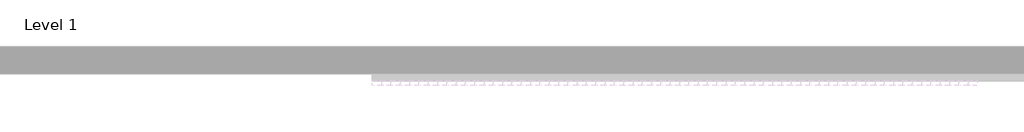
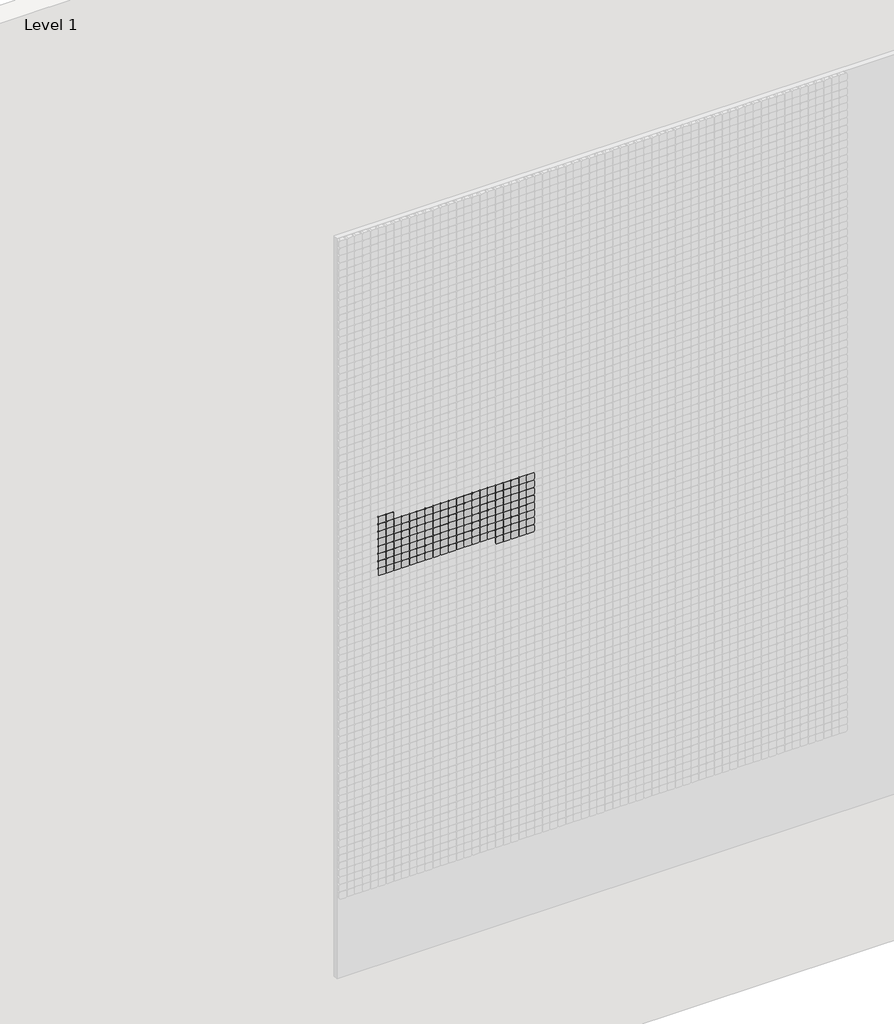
# One storey, part 13 of 71: 147 proxies.
"""IFC4 building model written with IfcOpenShell, lengths in millimetres."""

from ifc_helpers import new_model, si_unit, origin, place, context, project, spatial, transform, mapped, element, save
from components import generic_models_afde289c

model = new_model("IFC4")

# Units and contexts
model_context = context("Model", 3, world=origin())
ifc_project = project(units=[si_unit("LENGTHUNIT", "METRE", prefix="MILLI")], contexts=[model_context])

# Site, building, storey
site = spatial("IfcSite", under=ifc_project)
building = spatial("IfcBuilding", under=site)
storey = spatial("IfcBuildingStorey", under=building, Name="Level 1", Elevation=0.0)

# Proxies
placement = place(None, origin())
generic_models_shape = generic_models_afde289c(model_context)
element("IfcBuildingElementProxy", 1, Name="Pixel_M : Pixel_M", ObjectType="Pixel_M : Pixel_M", at=placement, inside=storey, context=model_context, shape_type="MappedRepresentation", body=[
    mapped(generic_models_shape, transform((5062.4280941, -75.0, 4016.3566215), x_axis=(1.0, 0.0, 0.0), y_axis=(0.0, 0.0, 1.0), z_axis=(0.0, -1.0, 0.0))),
])
element("IfcBuildingElementProxy", 2, Name="Pixel_M : Pixel_M", ObjectType="Pixel_M : Pixel_M", at=placement, inside=storey, context=model_context, shape_type="MappedRepresentation", body=[
    mapped(generic_models_shape, transform((5012.4280941, -75.0, 4016.3566215), x_axis=(1.0, 0.0, 0.0), y_axis=(0.0, 0.0, 1.0), z_axis=(0.0, -1.0, 0.0))),
])
element("IfcBuildingElementProxy", 3, Name="Pixel_M : Pixel_M", ObjectType="Pixel_M : Pixel_M", at=placement, inside=storey, context=model_context, shape_type="MappedRepresentation", body=[
    mapped(generic_models_shape, transform((5962.4280941, -75.0, 3966.3566215), x_axis=(1.0, 0.0, 0.0), y_axis=(0.0, 0.0, 1.0), z_axis=(0.0, -1.0, 0.0))),
])
element("IfcBuildingElementProxy", 4, Name="Pixel_M : Pixel_M", ObjectType="Pixel_M : Pixel_M", at=placement, inside=storey, context=model_context, shape_type="MappedRepresentation", body=[
    mapped(generic_models_shape, transform((5912.4280941, -75.0, 3966.3566215), x_axis=(1.0, 0.0, 0.0), y_axis=(0.0, 0.0, 1.0), z_axis=(0.0, -1.0, 0.0))),
])
element("IfcBuildingElementProxy", 5, Name="Pixel_M : Pixel_M", ObjectType="Pixel_M : Pixel_M", at=placement, inside=storey, context=model_context, shape_type="MappedRepresentation", body=[
    mapped(generic_models_shape, transform((5862.4280941, -75.0, 3966.3566215), x_axis=(1.0, 0.0, 0.0), y_axis=(0.0, 0.0, 1.0), z_axis=(0.0, -1.0, 0.0))),
])
element("IfcBuildingElementProxy", 6, Name="Pixel_M : Pixel_M", ObjectType="Pixel_M : Pixel_M", at=placement, inside=storey, context=model_context, shape_type="MappedRepresentation", body=[
    mapped(generic_models_shape, transform((5812.4280941, -75.0, 3966.3566215), x_axis=(1.0, 0.0, 0.0), y_axis=(0.0, 0.0, 1.0), z_axis=(0.0, -1.0, 0.0))),
])
element("IfcBuildingElementProxy", 7, Name="Pixel_M : Pixel_M", ObjectType="Pixel_M : Pixel_M", at=placement, inside=storey, context=model_context, shape_type="MappedRepresentation", body=[
    mapped(generic_models_shape, transform((5762.4280941, -75.0, 3966.3566215), x_axis=(1.0, 0.0, 0.0), y_axis=(0.0, 0.0, 1.0), z_axis=(0.0, -1.0, 0.0))),
])
element("IfcBuildingElementProxy", 8, Name="Pixel_M : Pixel_M", ObjectType="Pixel_M : Pixel_M", at=placement, inside=storey, context=model_context, shape_type="MappedRepresentation", body=[
    mapped(generic_models_shape, transform((5712.4280941, -75.0, 3966.3566215), x_axis=(1.0, 0.0, 0.0), y_axis=(0.0, 0.0, 1.0), z_axis=(0.0, -1.0, 0.0))),
])
element("IfcBuildingElementProxy", 9, Name="Pixel_M : Pixel_M", ObjectType="Pixel_M : Pixel_M", at=placement, inside=storey, context=model_context, shape_type="MappedRepresentation", body=[
    mapped(generic_models_shape, transform((5662.4280941, -75.0, 3966.3566215), x_axis=(1.0, 0.0, 0.0), y_axis=(0.0, 0.0, 1.0), z_axis=(0.0, -1.0, 0.0))),
])
element("IfcBuildingElementProxy", 10, Name="Pixel_M : Pixel_M", ObjectType="Pixel_M : Pixel_M", at=placement, inside=storey, context=model_context, shape_type="MappedRepresentation", body=[
    mapped(generic_models_shape, transform((5612.4280941, -75.0, 3966.3566215), x_axis=(1.0, 0.0, 0.0), y_axis=(0.0, 0.0, 1.0), z_axis=(0.0, -1.0, 0.0))),
])
element("IfcBuildingElementProxy", 11, Name="Pixel_M : Pixel_M", ObjectType="Pixel_M : Pixel_M", at=placement, inside=storey, context=model_context, shape_type="MappedRepresentation", body=[
    mapped(generic_models_shape, transform((5562.4280941, -75.0, 3966.3566215), x_axis=(1.0, 0.0, 0.0), y_axis=(0.0, 0.0, 1.0), z_axis=(0.0, -1.0, 0.0))),
])
element("IfcBuildingElementProxy", 12, Name="Pixel_M : Pixel_M", ObjectType="Pixel_M : Pixel_M", at=placement, inside=storey, context=model_context, shape_type="MappedRepresentation", body=[
    mapped(generic_models_shape, transform((5512.4280941, -75.0, 3966.3566215), x_axis=(1.0, 0.0, 0.0), y_axis=(0.0, 0.0, 1.0), z_axis=(0.0, -1.0, 0.0))),
])
element("IfcBuildingElementProxy", 13, Name="Pixel_M : Pixel_M", ObjectType="Pixel_M : Pixel_M", at=placement, inside=storey, context=model_context, shape_type="MappedRepresentation", body=[
    mapped(generic_models_shape, transform((5462.4280941, -75.0, 3966.3566215), x_axis=(1.0, 0.0, 0.0), y_axis=(0.0, 0.0, 1.0), z_axis=(0.0, -1.0, 0.0))),
])
element("IfcBuildingElementProxy", 14, Name="Pixel_M : Pixel_M", ObjectType="Pixel_M : Pixel_M", at=placement, inside=storey, context=model_context, shape_type="MappedRepresentation", body=[
    mapped(generic_models_shape, transform((5412.4280941, -75.0, 3966.3566215), x_axis=(1.0, 0.0, 0.0), y_axis=(0.0, 0.0, 1.0), z_axis=(0.0, -1.0, 0.0))),
])
element("IfcBuildingElementProxy", 15, Name="Pixel_M : Pixel_M", ObjectType="Pixel_M : Pixel_M", at=placement, inside=storey, context=model_context, shape_type="MappedRepresentation", body=[
    mapped(generic_models_shape, transform((5362.4280941, -75.0, 3966.3566215), x_axis=(1.0, 0.0, 0.0), y_axis=(0.0, 0.0, 1.0), z_axis=(0.0, -1.0, 0.0))),
])
element("IfcBuildingElementProxy", 16, Name="Pixel_M : Pixel_M", ObjectType="Pixel_M : Pixel_M", at=placement, inside=storey, context=model_context, shape_type="MappedRepresentation", body=[
    mapped(generic_models_shape, transform((5312.4280941, -75.0, 3966.3566215), x_axis=(1.0, 0.0, 0.0), y_axis=(0.0, 0.0, 1.0), z_axis=(0.0, -1.0, 0.0))),
])
element("IfcBuildingElementProxy", 17, Name="Pixel_M : Pixel_M", ObjectType="Pixel_M : Pixel_M", at=placement, inside=storey, context=model_context, shape_type="MappedRepresentation", body=[
    mapped(generic_models_shape, transform((5262.4280941, -75.0, 3966.3566215), x_axis=(1.0, 0.0, 0.0), y_axis=(0.0, 0.0, 1.0), z_axis=(0.0, -1.0, 0.0))),
])
element("IfcBuildingElementProxy", 18, Name="Pixel_M : Pixel_M", ObjectType="Pixel_M : Pixel_M", at=placement, inside=storey, context=model_context, shape_type="MappedRepresentation", body=[
    mapped(generic_models_shape, transform((5212.4280941, -75.0, 3966.3566215), x_axis=(1.0, 0.0, 0.0), y_axis=(0.0, 0.0, 1.0), z_axis=(0.0, -1.0, 0.0))),
])
element("IfcBuildingElementProxy", 19, Name="Pixel_M : Pixel_M", ObjectType="Pixel_M : Pixel_M", at=placement, inside=storey, context=model_context, shape_type="MappedRepresentation", body=[
    mapped(generic_models_shape, transform((5162.4280941, -75.0, 3966.3566215), x_axis=(1.0, 0.0, 0.0), y_axis=(0.0, 0.0, 1.0), z_axis=(0.0, -1.0, 0.0))),
])
element("IfcBuildingElementProxy", 20, Name="Pixel_M : Pixel_M", ObjectType="Pixel_M : Pixel_M", at=placement, inside=storey, context=model_context, shape_type="MappedRepresentation", body=[
    mapped(generic_models_shape, transform((5112.4280941, -75.0, 3966.3566215), x_axis=(1.0, 0.0, 0.0), y_axis=(0.0, 0.0, 1.0), z_axis=(0.0, -1.0, 0.0))),
])
element("IfcBuildingElementProxy", 21, Name="Pixel_M : Pixel_M", ObjectType="Pixel_M : Pixel_M", at=placement, inside=storey, context=model_context, shape_type="MappedRepresentation", body=[
    mapped(generic_models_shape, transform((5062.4280941, -75.0, 3966.3566215), x_axis=(1.0, 0.0, 0.0), y_axis=(0.0, 0.0, 1.0), z_axis=(0.0, -1.0, 0.0))),
])
element("IfcBuildingElementProxy", 22, Name="Pixel_M : Pixel_M", ObjectType="Pixel_M : Pixel_M", at=placement, inside=storey, context=model_context, shape_type="MappedRepresentation", body=[
    mapped(generic_models_shape, transform((5012.4280941, -75.0, 3966.3566215), x_axis=(1.0, 0.0, 0.0), y_axis=(0.0, 0.0, 1.0), z_axis=(0.0, -1.0, 0.0))),
])
element("IfcBuildingElementProxy", 23, Name="Pixel_M : Pixel_M", ObjectType="Pixel_M : Pixel_M", at=placement, inside=storey, context=model_context, shape_type="MappedRepresentation", body=[
    mapped(generic_models_shape, transform((5962.4280941, -75.0, 3916.3566215), x_axis=(1.0, 0.0, 0.0), y_axis=(0.0, 0.0, 1.0), z_axis=(0.0, -1.0, 0.0))),
])
element("IfcBuildingElementProxy", 24, Name="Pixel_M : Pixel_M", ObjectType="Pixel_M : Pixel_M", at=placement, inside=storey, context=model_context, shape_type="MappedRepresentation", body=[
    mapped(generic_models_shape, transform((5912.4280941, -75.0, 3916.3566215), x_axis=(1.0, 0.0, 0.0), y_axis=(0.0, 0.0, 1.0), z_axis=(0.0, -1.0, 0.0))),
])
element("IfcBuildingElementProxy", 25, Name="Pixel_M : Pixel_M", ObjectType="Pixel_M : Pixel_M", at=placement, inside=storey, context=model_context, shape_type="MappedRepresentation", body=[
    mapped(generic_models_shape, transform((5862.4280941, -75.0, 3916.3566215), x_axis=(1.0, 0.0, 0.0), y_axis=(0.0, 0.0, 1.0), z_axis=(0.0, -1.0, 0.0))),
])
element("IfcBuildingElementProxy", 26, Name="Pixel_M : Pixel_M", ObjectType="Pixel_M : Pixel_M", at=placement, inside=storey, context=model_context, shape_type="MappedRepresentation", body=[
    mapped(generic_models_shape, transform((5812.4280941, -75.0, 3916.3566215), x_axis=(1.0, 0.0, 0.0), y_axis=(0.0, 0.0, 1.0), z_axis=(0.0, -1.0, 0.0))),
])
element("IfcBuildingElementProxy", 27, Name="Pixel_M : Pixel_M", ObjectType="Pixel_M : Pixel_M", at=placement, inside=storey, context=model_context, shape_type="MappedRepresentation", body=[
    mapped(generic_models_shape, transform((5762.4280941, -75.0, 3916.3566215), x_axis=(1.0, 0.0, 0.0), y_axis=(0.0, 0.0, 1.0), z_axis=(0.0, -1.0, 0.0))),
])
element("IfcBuildingElementProxy", 28, Name="Pixel_M : Pixel_M", ObjectType="Pixel_M : Pixel_M", at=placement, inside=storey, context=model_context, shape_type="MappedRepresentation", body=[
    mapped(generic_models_shape, transform((5712.4280941, -75.0, 3916.3566215), x_axis=(1.0, 0.0, 0.0), y_axis=(0.0, 0.0, 1.0), z_axis=(0.0, -1.0, 0.0))),
])
element("IfcBuildingElementProxy", 29, Name="Pixel_M : Pixel_M", ObjectType="Pixel_M : Pixel_M", at=placement, inside=storey, context=model_context, shape_type="MappedRepresentation", body=[
    mapped(generic_models_shape, transform((5662.4280941, -75.0, 3916.3566215), x_axis=(1.0, 0.0, 0.0), y_axis=(0.0, 0.0, 1.0), z_axis=(0.0, -1.0, 0.0))),
])
element("IfcBuildingElementProxy", 30, Name="Pixel_M : Pixel_M", ObjectType="Pixel_M : Pixel_M", at=placement, inside=storey, context=model_context, shape_type="MappedRepresentation", body=[
    mapped(generic_models_shape, transform((5612.4280941, -75.0, 3916.3566215), x_axis=(1.0, 0.0, 0.0), y_axis=(0.0, 0.0, 1.0), z_axis=(0.0, -1.0, 0.0))),
])
element("IfcBuildingElementProxy", 31, Name="Pixel_M : Pixel_M", ObjectType="Pixel_M : Pixel_M", at=placement, inside=storey, context=model_context, shape_type="MappedRepresentation", body=[
    mapped(generic_models_shape, transform((5562.4280941, -75.0, 3916.3566215), x_axis=(1.0, 0.0, 0.0), y_axis=(0.0, 0.0, 1.0), z_axis=(0.0, -1.0, 0.0))),
])
element("IfcBuildingElementProxy", 32, Name="Pixel_M : Pixel_M", ObjectType="Pixel_M : Pixel_M", at=placement, inside=storey, context=model_context, shape_type="MappedRepresentation", body=[
    mapped(generic_models_shape, transform((5512.4280941, -75.0, 3916.3566215), x_axis=(1.0, 0.0, 0.0), y_axis=(0.0, 0.0, 1.0), z_axis=(0.0, -1.0, 0.0))),
])
element("IfcBuildingElementProxy", 33, Name="Pixel_M : Pixel_M", ObjectType="Pixel_M : Pixel_M", at=placement, inside=storey, context=model_context, shape_type="MappedRepresentation", body=[
    mapped(generic_models_shape, transform((5462.4280941, -75.0, 3916.3566215), x_axis=(1.0, 0.0, 0.0), y_axis=(0.0, 0.0, 1.0), z_axis=(0.0, -1.0, 0.0))),
])
element("IfcBuildingElementProxy", 34, Name="Pixel_M : Pixel_M", ObjectType="Pixel_M : Pixel_M", at=placement, inside=storey, context=model_context, shape_type="MappedRepresentation", body=[
    mapped(generic_models_shape, transform((5412.4280941, -75.0, 3916.3566215), x_axis=(1.0, 0.0, 0.0), y_axis=(0.0, 0.0, 1.0), z_axis=(0.0, -1.0, 0.0))),
])
element("IfcBuildingElementProxy", 35, Name="Pixel_M : Pixel_M", ObjectType="Pixel_M : Pixel_M", at=placement, inside=storey, context=model_context, shape_type="MappedRepresentation", body=[
    mapped(generic_models_shape, transform((5362.4280941, -75.0, 3916.3566215), x_axis=(1.0, 0.0, 0.0), y_axis=(0.0, 0.0, 1.0), z_axis=(0.0, -1.0, 0.0))),
])
element("IfcBuildingElementProxy", 36, Name="Pixel_M : Pixel_M", ObjectType="Pixel_M : Pixel_M", at=placement, inside=storey, context=model_context, shape_type="MappedRepresentation", body=[
    mapped(generic_models_shape, transform((5312.4280941, -75.0, 3916.3566215), x_axis=(1.0, 0.0, 0.0), y_axis=(0.0, 0.0, 1.0), z_axis=(0.0, -1.0, 0.0))),
])
element("IfcBuildingElementProxy", 37, Name="Pixel_M : Pixel_M", ObjectType="Pixel_M : Pixel_M", at=placement, inside=storey, context=model_context, shape_type="MappedRepresentation", body=[
    mapped(generic_models_shape, transform((5262.4280941, -75.0, 3916.3566215), x_axis=(1.0, 0.0, 0.0), y_axis=(0.0, 0.0, 1.0), z_axis=(0.0, -1.0, 0.0))),
])
element("IfcBuildingElementProxy", 38, Name="Pixel_M : Pixel_M", ObjectType="Pixel_M : Pixel_M", at=placement, inside=storey, context=model_context, shape_type="MappedRepresentation", body=[
    mapped(generic_models_shape, transform((5212.4280941, -75.0, 3916.3566215), x_axis=(1.0, 0.0, 0.0), y_axis=(0.0, 0.0, 1.0), z_axis=(0.0, -1.0, 0.0))),
])
element("IfcBuildingElementProxy", 39, Name="Pixel_M : Pixel_M", ObjectType="Pixel_M : Pixel_M", at=placement, inside=storey, context=model_context, shape_type="MappedRepresentation", body=[
    mapped(generic_models_shape, transform((5162.4280941, -75.0, 3916.3566215), x_axis=(1.0, 0.0, 0.0), y_axis=(0.0, 0.0, 1.0), z_axis=(0.0, -1.0, 0.0))),
])
element("IfcBuildingElementProxy", 40, Name="Pixel_M : Pixel_M", ObjectType="Pixel_M : Pixel_M", at=placement, inside=storey, context=model_context, shape_type="MappedRepresentation", body=[
    mapped(generic_models_shape, transform((5112.4280941, -75.0, 3916.3566215), x_axis=(1.0, 0.0, 0.0), y_axis=(0.0, 0.0, 1.0), z_axis=(0.0, -1.0, 0.0))),
])
element("IfcBuildingElementProxy", 41, Name="Pixel_M : Pixel_M", ObjectType="Pixel_M : Pixel_M", at=placement, inside=storey, context=model_context, shape_type="MappedRepresentation", body=[
    mapped(generic_models_shape, transform((5062.4280941, -75.0, 3916.3566215), x_axis=(1.0, 0.0, 0.0), y_axis=(0.0, 0.0, 1.0), z_axis=(0.0, -1.0, 0.0))),
])
element("IfcBuildingElementProxy", 42, Name="Pixel_M : Pixel_M", ObjectType="Pixel_M : Pixel_M", at=placement, inside=storey, context=model_context, shape_type="MappedRepresentation", body=[
    mapped(generic_models_shape, transform((5012.4280941, -75.0, 3916.3566215), x_axis=(1.0, 0.0, 0.0), y_axis=(0.0, 0.0, 1.0), z_axis=(0.0, -1.0, 0.0))),
])
element("IfcBuildingElementProxy", 43, Name="Pixel_M : Pixel_M", ObjectType="Pixel_M : Pixel_M", at=placement, inside=storey, context=model_context, shape_type="MappedRepresentation", body=[
    mapped(generic_models_shape, transform((5962.4280941, -75.0, 3866.3566215), x_axis=(1.0, 0.0, 0.0), y_axis=(0.0, 0.0, 1.0), z_axis=(0.0, -1.0, 0.0))),
])
element("IfcBuildingElementProxy", 44, Name="Pixel_M : Pixel_M", ObjectType="Pixel_M : Pixel_M", at=placement, inside=storey, context=model_context, shape_type="MappedRepresentation", body=[
    mapped(generic_models_shape, transform((5912.4280941, -75.0, 3866.3566215), x_axis=(1.0, 0.0, 0.0), y_axis=(0.0, 0.0, 1.0), z_axis=(0.0, -1.0, 0.0))),
])
element("IfcBuildingElementProxy", 45, Name="Pixel_M : Pixel_M", ObjectType="Pixel_M : Pixel_M", at=placement, inside=storey, context=model_context, shape_type="MappedRepresentation", body=[
    mapped(generic_models_shape, transform((5862.4280941, -75.0, 3866.3566215), x_axis=(1.0, 0.0, 0.0), y_axis=(0.0, 0.0, 1.0), z_axis=(0.0, -1.0, 0.0))),
])
element("IfcBuildingElementProxy", 46, Name="Pixel_M : Pixel_M", ObjectType="Pixel_M : Pixel_M", at=placement, inside=storey, context=model_context, shape_type="MappedRepresentation", body=[
    mapped(generic_models_shape, transform((5812.4280941, -75.0, 3866.3566215), x_axis=(1.0, 0.0, 0.0), y_axis=(0.0, 0.0, 1.0), z_axis=(0.0, -1.0, 0.0))),
])
element("IfcBuildingElementProxy", 47, Name="Pixel_M : Pixel_M", ObjectType="Pixel_M : Pixel_M", at=placement, inside=storey, context=model_context, shape_type="MappedRepresentation", body=[
    mapped(generic_models_shape, transform((5762.4280941, -75.0, 3866.3566215), x_axis=(1.0, 0.0, 0.0), y_axis=(0.0, 0.0, 1.0), z_axis=(0.0, -1.0, 0.0))),
])
element("IfcBuildingElementProxy", 48, Name="Pixel_M : Pixel_M", ObjectType="Pixel_M : Pixel_M", at=placement, inside=storey, context=model_context, shape_type="MappedRepresentation", body=[
    mapped(generic_models_shape, transform((5712.4280941, -75.0, 3866.3566215), x_axis=(1.0, 0.0, 0.0), y_axis=(0.0, 0.0, 1.0), z_axis=(0.0, -1.0, 0.0))),
])
element("IfcBuildingElementProxy", 49, Name="Pixel_M : Pixel_M", ObjectType="Pixel_M : Pixel_M", at=placement, inside=storey, context=model_context, shape_type="MappedRepresentation", body=[
    mapped(generic_models_shape, transform((5662.4280941, -75.0, 3866.3566215), x_axis=(1.0, 0.0, 0.0), y_axis=(0.0, 0.0, 1.0), z_axis=(0.0, -1.0, 0.0))),
])
element("IfcBuildingElementProxy", 50, Name="Pixel_M : Pixel_M", ObjectType="Pixel_M : Pixel_M", at=placement, inside=storey, context=model_context, shape_type="MappedRepresentation", body=[
    mapped(generic_models_shape, transform((5612.4280941, -75.0, 3866.3566215), x_axis=(1.0, 0.0, 0.0), y_axis=(0.0, 0.0, 1.0), z_axis=(0.0, -1.0, 0.0))),
])
element("IfcBuildingElementProxy", 51, Name="Pixel_M : Pixel_M", ObjectType="Pixel_M : Pixel_M", at=placement, inside=storey, context=model_context, shape_type="MappedRepresentation", body=[
    mapped(generic_models_shape, transform((5562.4280941, -75.0, 3866.3566215), x_axis=(1.0, 0.0, 0.0), y_axis=(0.0, 0.0, 1.0), z_axis=(0.0, -1.0, 0.0))),
])
element("IfcBuildingElementProxy", 52, Name="Pixel_M : Pixel_M", ObjectType="Pixel_M : Pixel_M", at=placement, inside=storey, context=model_context, shape_type="MappedRepresentation", body=[
    mapped(generic_models_shape, transform((5512.4280941, -75.0, 3866.3566215), x_axis=(1.0, 0.0, 0.0), y_axis=(0.0, 0.0, 1.0), z_axis=(0.0, -1.0, 0.0))),
])
element("IfcBuildingElementProxy", 53, Name="Pixel_M : Pixel_M", ObjectType="Pixel_M : Pixel_M", at=placement, inside=storey, context=model_context, shape_type="MappedRepresentation", body=[
    mapped(generic_models_shape, transform((5462.4280941, -75.0, 3866.3566215), x_axis=(1.0, 0.0, 0.0), y_axis=(0.0, 0.0, 1.0), z_axis=(0.0, -1.0, 0.0))),
])
element("IfcBuildingElementProxy", 54, Name="Pixel_M : Pixel_M", ObjectType="Pixel_M : Pixel_M", at=placement, inside=storey, context=model_context, shape_type="MappedRepresentation", body=[
    mapped(generic_models_shape, transform((5412.4280941, -75.0, 3866.3566215), x_axis=(1.0, 0.0, 0.0), y_axis=(0.0, 0.0, 1.0), z_axis=(0.0, -1.0, 0.0))),
])
element("IfcBuildingElementProxy", 55, Name="Pixel_M : Pixel_M", ObjectType="Pixel_M : Pixel_M", at=placement, inside=storey, context=model_context, shape_type="MappedRepresentation", body=[
    mapped(generic_models_shape, transform((5362.4280941, -75.0, 3866.3566215), x_axis=(1.0, 0.0, 0.0), y_axis=(0.0, 0.0, 1.0), z_axis=(0.0, -1.0, 0.0))),
])
element("IfcBuildingElementProxy", 56, Name="Pixel_M : Pixel_M", ObjectType="Pixel_M : Pixel_M", at=placement, inside=storey, context=model_context, shape_type="MappedRepresentation", body=[
    mapped(generic_models_shape, transform((5312.4280941, -75.0, 3866.3566215), x_axis=(1.0, 0.0, 0.0), y_axis=(0.0, 0.0, 1.0), z_axis=(0.0, -1.0, 0.0))),
])
element("IfcBuildingElementProxy", 57, Name="Pixel_M : Pixel_M", ObjectType="Pixel_M : Pixel_M", at=placement, inside=storey, context=model_context, shape_type="MappedRepresentation", body=[
    mapped(generic_models_shape, transform((5262.4280941, -75.0, 3866.3566215), x_axis=(1.0, 0.0, 0.0), y_axis=(0.0, 0.0, 1.0), z_axis=(0.0, -1.0, 0.0))),
])
element("IfcBuildingElementProxy", 58, Name="Pixel_M : Pixel_M", ObjectType="Pixel_M : Pixel_M", at=placement, inside=storey, context=model_context, shape_type="MappedRepresentation", body=[
    mapped(generic_models_shape, transform((5212.4280941, -75.0, 3866.3566215), x_axis=(1.0, 0.0, 0.0), y_axis=(0.0, 0.0, 1.0), z_axis=(0.0, -1.0, 0.0))),
])
element("IfcBuildingElementProxy", 59, Name="Pixel_M : Pixel_M", ObjectType="Pixel_M : Pixel_M", at=placement, inside=storey, context=model_context, shape_type="MappedRepresentation", body=[
    mapped(generic_models_shape, transform((5162.4280941, -75.0, 3866.3566215), x_axis=(1.0, 0.0, 0.0), y_axis=(0.0, 0.0, 1.0), z_axis=(0.0, -1.0, 0.0))),
])
element("IfcBuildingElementProxy", 60, Name="Pixel_M : Pixel_M", ObjectType="Pixel_M : Pixel_M", at=placement, inside=storey, context=model_context, shape_type="MappedRepresentation", body=[
    mapped(generic_models_shape, transform((5112.4280941, -75.0, 3866.3566215), x_axis=(1.0, 0.0, 0.0), y_axis=(0.0, 0.0, 1.0), z_axis=(0.0, -1.0, 0.0))),
])
element("IfcBuildingElementProxy", 61, Name="Pixel_M : Pixel_M", ObjectType="Pixel_M : Pixel_M", at=placement, inside=storey, context=model_context, shape_type="MappedRepresentation", body=[
    mapped(generic_models_shape, transform((5062.4280941, -75.0, 3866.3566215), x_axis=(1.0, 0.0, 0.0), y_axis=(0.0, 0.0, 1.0), z_axis=(0.0, -1.0, 0.0))),
])
element("IfcBuildingElementProxy", 62, Name="Pixel_M : Pixel_M", ObjectType="Pixel_M : Pixel_M", at=placement, inside=storey, context=model_context, shape_type="MappedRepresentation", body=[
    mapped(generic_models_shape, transform((5012.4280941, -75.0, 3866.3566215), x_axis=(1.0, 0.0, 0.0), y_axis=(0.0, 0.0, 1.0), z_axis=(0.0, -1.0, 0.0))),
])
element("IfcBuildingElementProxy", 63, Name="Pixel_M : Pixel_M", ObjectType="Pixel_M : Pixel_M", at=placement, inside=storey, context=model_context, shape_type="MappedRepresentation", body=[
    mapped(generic_models_shape, transform((5962.4280941, -75.0, 3816.3566215), x_axis=(1.0, 0.0, 0.0), y_axis=(0.0, 0.0, 1.0), z_axis=(0.0, -1.0, 0.0))),
])
element("IfcBuildingElementProxy", 64, Name="Pixel_M : Pixel_M", ObjectType="Pixel_M : Pixel_M", at=placement, inside=storey, context=model_context, shape_type="MappedRepresentation", body=[
    mapped(generic_models_shape, transform((5912.4280941, -75.0, 3816.3566215), x_axis=(1.0, 0.0, 0.0), y_axis=(0.0, 0.0, 1.0), z_axis=(0.0, -1.0, 0.0))),
])
element("IfcBuildingElementProxy", 65, Name="Pixel_M : Pixel_M", ObjectType="Pixel_M : Pixel_M", at=placement, inside=storey, context=model_context, shape_type="MappedRepresentation", body=[
    mapped(generic_models_shape, transform((5862.4280941, -75.0, 3816.3566215), x_axis=(1.0, 0.0, 0.0), y_axis=(0.0, 0.0, 1.0), z_axis=(0.0, -1.0, 0.0))),
])
element("IfcBuildingElementProxy", 66, Name="Pixel_M : Pixel_M", ObjectType="Pixel_M : Pixel_M", at=placement, inside=storey, context=model_context, shape_type="MappedRepresentation", body=[
    mapped(generic_models_shape, transform((5812.4280941, -75.0, 3816.3566215), x_axis=(1.0, 0.0, 0.0), y_axis=(0.0, 0.0, 1.0), z_axis=(0.0, -1.0, 0.0))),
])
element("IfcBuildingElementProxy", 67, Name="Pixel_M : Pixel_M", ObjectType="Pixel_M : Pixel_M", at=placement, inside=storey, context=model_context, shape_type="MappedRepresentation", body=[
    mapped(generic_models_shape, transform((5762.4280941, -75.0, 3816.3566215), x_axis=(1.0, 0.0, 0.0), y_axis=(0.0, 0.0, 1.0), z_axis=(0.0, -1.0, 0.0))),
])
element("IfcBuildingElementProxy", 68, Name="Pixel_M : Pixel_M", ObjectType="Pixel_M : Pixel_M", at=placement, inside=storey, context=model_context, shape_type="MappedRepresentation", body=[
    mapped(generic_models_shape, transform((5712.4280941, -75.0, 3816.3566215), x_axis=(1.0, 0.0, 0.0), y_axis=(0.0, 0.0, 1.0), z_axis=(0.0, -1.0, 0.0))),
])
element("IfcBuildingElementProxy", 69, Name="Pixel_M : Pixel_M", ObjectType="Pixel_M : Pixel_M", at=placement, inside=storey, context=model_context, shape_type="MappedRepresentation", body=[
    mapped(generic_models_shape, transform((5662.4280941, -75.0, 3816.3566215), x_axis=(1.0, 0.0, 0.0), y_axis=(0.0, 0.0, 1.0), z_axis=(0.0, -1.0, 0.0))),
])
element("IfcBuildingElementProxy", 70, Name="Pixel_M : Pixel_M", ObjectType="Pixel_M : Pixel_M", at=placement, inside=storey, context=model_context, shape_type="MappedRepresentation", body=[
    mapped(generic_models_shape, transform((5612.4280941, -75.0, 3816.3566215), x_axis=(1.0, 0.0, 0.0), y_axis=(0.0, 0.0, 1.0), z_axis=(0.0, -1.0, 0.0))),
])
element("IfcBuildingElementProxy", 71, Name="Pixel_M : Pixel_M", ObjectType="Pixel_M : Pixel_M", at=placement, inside=storey, context=model_context, shape_type="MappedRepresentation", body=[
    mapped(generic_models_shape, transform((5562.4280941, -75.0, 3816.3566215), x_axis=(1.0, 0.0, 0.0), y_axis=(0.0, 0.0, 1.0), z_axis=(0.0, -1.0, 0.0))),
])
element("IfcBuildingElementProxy", 72, Name="Pixel_M : Pixel_M", ObjectType="Pixel_M : Pixel_M", at=placement, inside=storey, context=model_context, shape_type="MappedRepresentation", body=[
    mapped(generic_models_shape, transform((5512.4280941, -75.0, 3816.3566215), x_axis=(1.0, 0.0, 0.0), y_axis=(0.0, 0.0, 1.0), z_axis=(0.0, -1.0, 0.0))),
])
element("IfcBuildingElementProxy", 73, Name="Pixel_M : Pixel_M", ObjectType="Pixel_M : Pixel_M", at=placement, inside=storey, context=model_context, shape_type="MappedRepresentation", body=[
    mapped(generic_models_shape, transform((5462.4280941, -75.0, 3816.3566215), x_axis=(1.0, 0.0, 0.0), y_axis=(0.0, 0.0, 1.0), z_axis=(0.0, -1.0, 0.0))),
])
element("IfcBuildingElementProxy", 74, Name="Pixel_M : Pixel_M", ObjectType="Pixel_M : Pixel_M", at=placement, inside=storey, context=model_context, shape_type="MappedRepresentation", body=[
    mapped(generic_models_shape, transform((5412.4280941, -75.0, 3816.3566215), x_axis=(1.0, 0.0, 0.0), y_axis=(0.0, 0.0, 1.0), z_axis=(0.0, -1.0, 0.0))),
])
element("IfcBuildingElementProxy", 75, Name="Pixel_M : Pixel_M", ObjectType="Pixel_M : Pixel_M", at=placement, inside=storey, context=model_context, shape_type="MappedRepresentation", body=[
    mapped(generic_models_shape, transform((5362.4280941, -75.0, 3816.3566215), x_axis=(1.0, 0.0, 0.0), y_axis=(0.0, 0.0, 1.0), z_axis=(0.0, -1.0, 0.0))),
])
element("IfcBuildingElementProxy", 76, Name="Pixel_M : Pixel_M", ObjectType="Pixel_M : Pixel_M", at=placement, inside=storey, context=model_context, shape_type="MappedRepresentation", body=[
    mapped(generic_models_shape, transform((5312.4280941, -75.0, 3816.3566215), x_axis=(1.0, 0.0, 0.0), y_axis=(0.0, 0.0, 1.0), z_axis=(0.0, -1.0, 0.0))),
])
element("IfcBuildingElementProxy", 77, Name="Pixel_M : Pixel_M", ObjectType="Pixel_M : Pixel_M", at=placement, inside=storey, context=model_context, shape_type="MappedRepresentation", body=[
    mapped(generic_models_shape, transform((5262.4280941, -75.0, 3816.3566215), x_axis=(1.0, 0.0, 0.0), y_axis=(0.0, 0.0, 1.0), z_axis=(0.0, -1.0, 0.0))),
])
element("IfcBuildingElementProxy", 78, Name="Pixel_M : Pixel_M", ObjectType="Pixel_M : Pixel_M", at=placement, inside=storey, context=model_context, shape_type="MappedRepresentation", body=[
    mapped(generic_models_shape, transform((5212.4280941, -75.0, 3816.3566215), x_axis=(1.0, 0.0, 0.0), y_axis=(0.0, 0.0, 1.0), z_axis=(0.0, -1.0, 0.0))),
])
element("IfcBuildingElementProxy", 79, Name="Pixel_M : Pixel_M", ObjectType="Pixel_M : Pixel_M", at=placement, inside=storey, context=model_context, shape_type="MappedRepresentation", body=[
    mapped(generic_models_shape, transform((5162.4280941, -75.0, 3816.3566215), x_axis=(1.0, 0.0, 0.0), y_axis=(0.0, 0.0, 1.0), z_axis=(0.0, -1.0, 0.0))),
])
element("IfcBuildingElementProxy", 80, Name="Pixel_M : Pixel_M", ObjectType="Pixel_M : Pixel_M", at=placement, inside=storey, context=model_context, shape_type="MappedRepresentation", body=[
    mapped(generic_models_shape, transform((5112.4280941, -75.0, 3816.3566215), x_axis=(1.0, 0.0, 0.0), y_axis=(0.0, 0.0, 1.0), z_axis=(0.0, -1.0, 0.0))),
])
element("IfcBuildingElementProxy", 81, Name="Pixel_M : Pixel_M", ObjectType="Pixel_M : Pixel_M", at=placement, inside=storey, context=model_context, shape_type="MappedRepresentation", body=[
    mapped(generic_models_shape, transform((5062.4280941, -75.0, 3816.3566215), x_axis=(1.0, 0.0, 0.0), y_axis=(0.0, 0.0, 1.0), z_axis=(0.0, -1.0, 0.0))),
])
element("IfcBuildingElementProxy", 82, Name="Pixel_M : Pixel_M", ObjectType="Pixel_M : Pixel_M", at=placement, inside=storey, context=model_context, shape_type="MappedRepresentation", body=[
    mapped(generic_models_shape, transform((5012.4280941, -75.0, 3816.3566215), x_axis=(1.0, 0.0, 0.0), y_axis=(0.0, 0.0, 1.0), z_axis=(0.0, -1.0, 0.0))),
])
element("IfcBuildingElementProxy", 83, Name="Pixel_M : Pixel_M", ObjectType="Pixel_M : Pixel_M", at=placement, inside=storey, context=model_context, shape_type="MappedRepresentation", body=[
    mapped(generic_models_shape, transform((5962.4280941, -75.0, 3766.3566215), x_axis=(1.0, 0.0, 0.0), y_axis=(0.0, 0.0, 1.0), z_axis=(0.0, -1.0, 0.0))),
])
element("IfcBuildingElementProxy", 84, Name="Pixel_M : Pixel_M", ObjectType="Pixel_M : Pixel_M", at=placement, inside=storey, context=model_context, shape_type="MappedRepresentation", body=[
    mapped(generic_models_shape, transform((5912.4280941, -75.0, 3766.3566215), x_axis=(1.0, 0.0, 0.0), y_axis=(0.0, 0.0, 1.0), z_axis=(0.0, -1.0, 0.0))),
])
element("IfcBuildingElementProxy", 85, Name="Pixel_M : Pixel_M", ObjectType="Pixel_M : Pixel_M", at=placement, inside=storey, context=model_context, shape_type="MappedRepresentation", body=[
    mapped(generic_models_shape, transform((5862.4280941, -75.0, 3766.3566215), x_axis=(1.0, 0.0, 0.0), y_axis=(0.0, 0.0, 1.0), z_axis=(0.0, -1.0, 0.0))),
])
element("IfcBuildingElementProxy", 86, Name="Pixel_M : Pixel_M", ObjectType="Pixel_M : Pixel_M", at=placement, inside=storey, context=model_context, shape_type="MappedRepresentation", body=[
    mapped(generic_models_shape, transform((5812.4280941, -75.0, 3766.3566215), x_axis=(1.0, 0.0, 0.0), y_axis=(0.0, 0.0, 1.0), z_axis=(0.0, -1.0, 0.0))),
])
element("IfcBuildingElementProxy", 87, Name="Pixel_M : Pixel_M", ObjectType="Pixel_M : Pixel_M", at=placement, inside=storey, context=model_context, shape_type="MappedRepresentation", body=[
    mapped(generic_models_shape, transform((5762.4280941, -75.0, 3766.3566215), x_axis=(1.0, 0.0, 0.0), y_axis=(0.0, 0.0, 1.0), z_axis=(0.0, -1.0, 0.0))),
])
element("IfcBuildingElementProxy", 88, Name="Pixel_M : Pixel_M", ObjectType="Pixel_M : Pixel_M", at=placement, inside=storey, context=model_context, shape_type="MappedRepresentation", body=[
    mapped(generic_models_shape, transform((5712.4280941, -75.0, 3766.3566215), x_axis=(1.0, 0.0, 0.0), y_axis=(0.0, 0.0, 1.0), z_axis=(0.0, -1.0, 0.0))),
])
element("IfcBuildingElementProxy", 89, Name="Pixel_M : Pixel_M", ObjectType="Pixel_M : Pixel_M", at=placement, inside=storey, context=model_context, shape_type="MappedRepresentation", body=[
    mapped(generic_models_shape, transform((5662.4280941, -75.0, 3766.3566215), x_axis=(1.0, 0.0, 0.0), y_axis=(0.0, 0.0, 1.0), z_axis=(0.0, -1.0, 0.0))),
])
element("IfcBuildingElementProxy", 90, Name="Pixel_M : Pixel_M", ObjectType="Pixel_M : Pixel_M", at=placement, inside=storey, context=model_context, shape_type="MappedRepresentation", body=[
    mapped(generic_models_shape, transform((5612.4280941, -75.0, 3766.3566215), x_axis=(1.0, 0.0, 0.0), y_axis=(0.0, 0.0, 1.0), z_axis=(0.0, -1.0, 0.0))),
])
element("IfcBuildingElementProxy", 91, Name="Pixel_M : Pixel_M", ObjectType="Pixel_M : Pixel_M", at=placement, inside=storey, context=model_context, shape_type="MappedRepresentation", body=[
    mapped(generic_models_shape, transform((5562.4280941, -75.0, 3766.3566215), x_axis=(1.0, 0.0, 0.0), y_axis=(0.0, 0.0, 1.0), z_axis=(0.0, -1.0, 0.0))),
])
element("IfcBuildingElementProxy", 92, Name="Pixel_M : Pixel_M", ObjectType="Pixel_M : Pixel_M", at=placement, inside=storey, context=model_context, shape_type="MappedRepresentation", body=[
    mapped(generic_models_shape, transform((5512.4280941, -75.0, 3766.3566215), x_axis=(1.0, 0.0, 0.0), y_axis=(0.0, 0.0, 1.0), z_axis=(0.0, -1.0, 0.0))),
])
element("IfcBuildingElementProxy", 93, Name="Pixel_M : Pixel_M", ObjectType="Pixel_M : Pixel_M", at=placement, inside=storey, context=model_context, shape_type="MappedRepresentation", body=[
    mapped(generic_models_shape, transform((5462.4280941, -75.0, 3766.3566215), x_axis=(1.0, 0.0, 0.0), y_axis=(0.0, 0.0, 1.0), z_axis=(0.0, -1.0, 0.0))),
])
element("IfcBuildingElementProxy", 94, Name="Pixel_M : Pixel_M", ObjectType="Pixel_M : Pixel_M", at=placement, inside=storey, context=model_context, shape_type="MappedRepresentation", body=[
    mapped(generic_models_shape, transform((5412.4280941, -75.0, 3766.3566215), x_axis=(1.0, 0.0, 0.0), y_axis=(0.0, 0.0, 1.0), z_axis=(0.0, -1.0, 0.0))),
])
element("IfcBuildingElementProxy", 95, Name="Pixel_M : Pixel_M", ObjectType="Pixel_M : Pixel_M", at=placement, inside=storey, context=model_context, shape_type="MappedRepresentation", body=[
    mapped(generic_models_shape, transform((5362.4280941, -75.0, 3766.3566215), x_axis=(1.0, 0.0, 0.0), y_axis=(0.0, 0.0, 1.0), z_axis=(0.0, -1.0, 0.0))),
])
element("IfcBuildingElementProxy", 96, Name="Pixel_M : Pixel_M", ObjectType="Pixel_M : Pixel_M", at=placement, inside=storey, context=model_context, shape_type="MappedRepresentation", body=[
    mapped(generic_models_shape, transform((5312.4280941, -75.0, 3766.3566215), x_axis=(1.0, 0.0, 0.0), y_axis=(0.0, 0.0, 1.0), z_axis=(0.0, -1.0, 0.0))),
])
element("IfcBuildingElementProxy", 97, Name="Pixel_M : Pixel_M", ObjectType="Pixel_M : Pixel_M", at=placement, inside=storey, context=model_context, shape_type="MappedRepresentation", body=[
    mapped(generic_models_shape, transform((5262.4280941, -75.0, 3766.3566215), x_axis=(1.0, 0.0, 0.0), y_axis=(0.0, 0.0, 1.0), z_axis=(0.0, -1.0, 0.0))),
])
element("IfcBuildingElementProxy", 98, Name="Pixel_M : Pixel_M", ObjectType="Pixel_M : Pixel_M", at=placement, inside=storey, context=model_context, shape_type="MappedRepresentation", body=[
    mapped(generic_models_shape, transform((5212.4280941, -75.0, 3766.3566215), x_axis=(1.0, 0.0, 0.0), y_axis=(0.0, 0.0, 1.0), z_axis=(0.0, -1.0, 0.0))),
])
element("IfcBuildingElementProxy", 99, Name="Pixel_M : Pixel_M", ObjectType="Pixel_M : Pixel_M", at=placement, inside=storey, context=model_context, shape_type="MappedRepresentation", body=[
    mapped(generic_models_shape, transform((5162.4280941, -75.0, 3766.3566215), x_axis=(1.0, 0.0, 0.0), y_axis=(0.0, 0.0, 1.0), z_axis=(0.0, -1.0, 0.0))),
])
element("IfcBuildingElementProxy", 100, Name="Pixel_M : Pixel_M", ObjectType="Pixel_M : Pixel_M", at=placement, inside=storey, context=model_context, shape_type="MappedRepresentation", body=[
    mapped(generic_models_shape, transform((5112.4280941, -75.0, 3766.3566215), x_axis=(1.0, 0.0, 0.0), y_axis=(0.0, 0.0, 1.0), z_axis=(0.0, -1.0, 0.0))),
])
element("IfcBuildingElementProxy", 101, Name="Pixel_M : Pixel_M", ObjectType="Pixel_M : Pixel_M", at=placement, inside=storey, context=model_context, shape_type="MappedRepresentation", body=[
    mapped(generic_models_shape, transform((5062.4280941, -75.0, 3766.3566215), x_axis=(1.0, 0.0, 0.0), y_axis=(0.0, 0.0, 1.0), z_axis=(0.0, -1.0, 0.0))),
])
element("IfcBuildingElementProxy", 102, Name="Pixel_M : Pixel_M", ObjectType="Pixel_M : Pixel_M", at=placement, inside=storey, context=model_context, shape_type="MappedRepresentation", body=[
    mapped(generic_models_shape, transform((5012.4280941, -75.0, 3766.3566215), x_axis=(1.0, 0.0, 0.0), y_axis=(0.0, 0.0, 1.0), z_axis=(0.0, -1.0, 0.0))),
])
element("IfcBuildingElementProxy", 103, Name="Pixel_M : Pixel_M", ObjectType="Pixel_M : Pixel_M", at=placement, inside=storey, context=model_context, shape_type="MappedRepresentation", body=[
    mapped(generic_models_shape, transform((5962.4280941, -75.0, 3716.3566215), x_axis=(1.0, 0.0, 0.0), y_axis=(0.0, 0.0, 1.0), z_axis=(0.0, -1.0, 0.0))),
])
element("IfcBuildingElementProxy", 104, Name="Pixel_M : Pixel_M", ObjectType="Pixel_M : Pixel_M", at=placement, inside=storey, context=model_context, shape_type="MappedRepresentation", body=[
    mapped(generic_models_shape, transform((5912.4280941, -75.0, 3716.3566215), x_axis=(1.0, 0.0, 0.0), y_axis=(0.0, 0.0, 1.0), z_axis=(0.0, -1.0, 0.0))),
])
element("IfcBuildingElementProxy", 105, Name="Pixel_M : Pixel_M", ObjectType="Pixel_M : Pixel_M", at=placement, inside=storey, context=model_context, shape_type="MappedRepresentation", body=[
    mapped(generic_models_shape, transform((5862.4280941, -75.0, 3716.3566215), x_axis=(1.0, 0.0, 0.0), y_axis=(0.0, 0.0, 1.0), z_axis=(0.0, -1.0, 0.0))),
])
element("IfcBuildingElementProxy", 106, Name="Pixel_M : Pixel_M", ObjectType="Pixel_M : Pixel_M", at=placement, inside=storey, context=model_context, shape_type="MappedRepresentation", body=[
    mapped(generic_models_shape, transform((5812.4280941, -75.0, 3716.3566215), x_axis=(1.0, 0.0, 0.0), y_axis=(0.0, 0.0, 1.0), z_axis=(0.0, -1.0, 0.0))),
])
element("IfcBuildingElementProxy", 107, Name="Pixel_M : Pixel_M", ObjectType="Pixel_M : Pixel_M", at=placement, inside=storey, context=model_context, shape_type="MappedRepresentation", body=[
    mapped(generic_models_shape, transform((5762.4280941, -75.0, 3716.3566215), x_axis=(1.0, 0.0, 0.0), y_axis=(0.0, 0.0, 1.0), z_axis=(0.0, -1.0, 0.0))),
])
element("IfcBuildingElementProxy", 108, Name="Pixel_M : Pixel_M", ObjectType="Pixel_M : Pixel_M", at=placement, inside=storey, context=model_context, shape_type="MappedRepresentation", body=[
    mapped(generic_models_shape, transform((5712.4280941, -75.0, 3716.3566215), x_axis=(1.0, 0.0, 0.0), y_axis=(0.0, 0.0, 1.0), z_axis=(0.0, -1.0, 0.0))),
])
element("IfcBuildingElementProxy", 109, Name="Pixel_M : Pixel_M", ObjectType="Pixel_M : Pixel_M", at=placement, inside=storey, context=model_context, shape_type="MappedRepresentation", body=[
    mapped(generic_models_shape, transform((5662.4280941, -75.0, 3716.3566215), x_axis=(1.0, 0.0, 0.0), y_axis=(0.0, 0.0, 1.0), z_axis=(0.0, -1.0, 0.0))),
])
element("IfcBuildingElementProxy", 110, Name="Pixel_M : Pixel_M", ObjectType="Pixel_M : Pixel_M", at=placement, inside=storey, context=model_context, shape_type="MappedRepresentation", body=[
    mapped(generic_models_shape, transform((5612.4280941, -75.0, 3716.3566215), x_axis=(1.0, 0.0, 0.0), y_axis=(0.0, 0.0, 1.0), z_axis=(0.0, -1.0, 0.0))),
])
element("IfcBuildingElementProxy", 111, Name="Pixel_M : Pixel_M", ObjectType="Pixel_M : Pixel_M", at=placement, inside=storey, context=model_context, shape_type="MappedRepresentation", body=[
    mapped(generic_models_shape, transform((5562.4280941, -75.0, 3716.3566215), x_axis=(1.0, 0.0, 0.0), y_axis=(0.0, 0.0, 1.0), z_axis=(0.0, -1.0, 0.0))),
])
element("IfcBuildingElementProxy", 112, Name="Pixel_M : Pixel_M", ObjectType="Pixel_M : Pixel_M", at=placement, inside=storey, context=model_context, shape_type="MappedRepresentation", body=[
    mapped(generic_models_shape, transform((5512.4280941, -75.0, 3716.3566215), x_axis=(1.0, 0.0, 0.0), y_axis=(0.0, 0.0, 1.0), z_axis=(0.0, -1.0, 0.0))),
])
element("IfcBuildingElementProxy", 113, Name="Pixel_M : Pixel_M", ObjectType="Pixel_M : Pixel_M", at=placement, inside=storey, context=model_context, shape_type="MappedRepresentation", body=[
    mapped(generic_models_shape, transform((5462.4280941, -75.0, 3716.3566215), x_axis=(1.0, 0.0, 0.0), y_axis=(0.0, 0.0, 1.0), z_axis=(0.0, -1.0, 0.0))),
])
element("IfcBuildingElementProxy", 114, Name="Pixel_M : Pixel_M", ObjectType="Pixel_M : Pixel_M", at=placement, inside=storey, context=model_context, shape_type="MappedRepresentation", body=[
    mapped(generic_models_shape, transform((5412.4280941, -75.0, 3716.3566215), x_axis=(1.0, 0.0, 0.0), y_axis=(0.0, 0.0, 1.0), z_axis=(0.0, -1.0, 0.0))),
])
element("IfcBuildingElementProxy", 115, Name="Pixel_M : Pixel_M", ObjectType="Pixel_M : Pixel_M", at=placement, inside=storey, context=model_context, shape_type="MappedRepresentation", body=[
    mapped(generic_models_shape, transform((5362.4280941, -75.0, 3716.3566215), x_axis=(1.0, 0.0, 0.0), y_axis=(0.0, 0.0, 1.0), z_axis=(0.0, -1.0, 0.0))),
])
element("IfcBuildingElementProxy", 116, Name="Pixel_M : Pixel_M", ObjectType="Pixel_M : Pixel_M", at=placement, inside=storey, context=model_context, shape_type="MappedRepresentation", body=[
    mapped(generic_models_shape, transform((5312.4280941, -75.0, 3716.3566215), x_axis=(1.0, 0.0, 0.0), y_axis=(0.0, 0.0, 1.0), z_axis=(0.0, -1.0, 0.0))),
])
element("IfcBuildingElementProxy", 117, Name="Pixel_M : Pixel_M", ObjectType="Pixel_M : Pixel_M", at=placement, inside=storey, context=model_context, shape_type="MappedRepresentation", body=[
    mapped(generic_models_shape, transform((5262.4280941, -75.0, 3716.3566215), x_axis=(1.0, 0.0, 0.0), y_axis=(0.0, 0.0, 1.0), z_axis=(0.0, -1.0, 0.0))),
])
element("IfcBuildingElementProxy", 118, Name="Pixel_M : Pixel_M", ObjectType="Pixel_M : Pixel_M", at=placement, inside=storey, context=model_context, shape_type="MappedRepresentation", body=[
    mapped(generic_models_shape, transform((5212.4280941, -75.0, 3716.3566215), x_axis=(1.0, 0.0, 0.0), y_axis=(0.0, 0.0, 1.0), z_axis=(0.0, -1.0, 0.0))),
])
element("IfcBuildingElementProxy", 119, Name="Pixel_M : Pixel_M", ObjectType="Pixel_M : Pixel_M", at=placement, inside=storey, context=model_context, shape_type="MappedRepresentation", body=[
    mapped(generic_models_shape, transform((5162.4280941, -75.0, 3716.3566215), x_axis=(1.0, 0.0, 0.0), y_axis=(0.0, 0.0, 1.0), z_axis=(0.0, -1.0, 0.0))),
])
element("IfcBuildingElementProxy", 120, Name="Pixel_M : Pixel_M", ObjectType="Pixel_M : Pixel_M", at=placement, inside=storey, context=model_context, shape_type="MappedRepresentation", body=[
    mapped(generic_models_shape, transform((5112.4280941, -75.0, 3716.3566215), x_axis=(1.0, 0.0, 0.0), y_axis=(0.0, 0.0, 1.0), z_axis=(0.0, -1.0, 0.0))),
])
element("IfcBuildingElementProxy", 121, Name="Pixel_M : Pixel_M", ObjectType="Pixel_M : Pixel_M", at=placement, inside=storey, context=model_context, shape_type="MappedRepresentation", body=[
    mapped(generic_models_shape, transform((5062.4280941, -75.0, 3716.3566215), x_axis=(1.0, 0.0, 0.0), y_axis=(0.0, 0.0, 1.0), z_axis=(0.0, -1.0, 0.0))),
])
element("IfcBuildingElementProxy", 122, Name="Pixel_M : Pixel_M", ObjectType="Pixel_M : Pixel_M", at=placement, inside=storey, context=model_context, shape_type="MappedRepresentation", body=[
    mapped(generic_models_shape, transform((5012.4280941, -75.0, 3716.3566215), x_axis=(1.0, 0.0, 0.0), y_axis=(0.0, 0.0, 1.0), z_axis=(0.0, -1.0, 0.0))),
])
element("IfcBuildingElementProxy", 123, Name="Pixel_M : Pixel_M", ObjectType="Pixel_M : Pixel_M", at=placement, inside=storey, context=model_context, shape_type="MappedRepresentation", body=[
    mapped(generic_models_shape, transform((5962.4280941, -75.0, 3666.3566215), x_axis=(1.0, 0.0, 0.0), y_axis=(0.0, 0.0, 1.0), z_axis=(0.0, -1.0, 0.0))),
])
element("IfcBuildingElementProxy", 124, Name="Pixel_M : Pixel_M", ObjectType="Pixel_M : Pixel_M", at=placement, inside=storey, context=model_context, shape_type="MappedRepresentation", body=[
    mapped(generic_models_shape, transform((5912.4280941, -75.0, 3666.3566215), x_axis=(1.0, 0.0, 0.0), y_axis=(0.0, 0.0, 1.0), z_axis=(0.0, -1.0, 0.0))),
])
element("IfcBuildingElementProxy", 125, Name="Pixel_M : Pixel_M", ObjectType="Pixel_M : Pixel_M", at=placement, inside=storey, context=model_context, shape_type="MappedRepresentation", body=[
    mapped(generic_models_shape, transform((5862.4280941, -75.0, 3666.3566215), x_axis=(1.0, 0.0, 0.0), y_axis=(0.0, 0.0, 1.0), z_axis=(0.0, -1.0, 0.0))),
])
element("IfcBuildingElementProxy", 126, Name="Pixel_M : Pixel_M", ObjectType="Pixel_M : Pixel_M", at=placement, inside=storey, context=model_context, shape_type="MappedRepresentation", body=[
    mapped(generic_models_shape, transform((5812.4280941, -75.0, 3666.3566215), x_axis=(1.0, 0.0, 0.0), y_axis=(0.0, 0.0, 1.0), z_axis=(0.0, -1.0, 0.0))),
])
element("IfcBuildingElementProxy", 127, Name="Pixel_M : Pixel_M", ObjectType="Pixel_M : Pixel_M", at=placement, inside=storey, context=model_context, shape_type="MappedRepresentation", body=[
    mapped(generic_models_shape, transform((5762.4280941, -75.0, 3666.3566215), x_axis=(1.0, 0.0, 0.0), y_axis=(0.0, 0.0, 1.0), z_axis=(0.0, -1.0, 0.0))),
])
element("IfcBuildingElementProxy", 128, Name="Pixel_M : Pixel_M", ObjectType="Pixel_M : Pixel_M", at=placement, inside=storey, context=model_context, shape_type="MappedRepresentation", body=[
    mapped(generic_models_shape, transform((5712.4280941, -75.0, 3666.3566215), x_axis=(1.0, 0.0, 0.0), y_axis=(0.0, 0.0, 1.0), z_axis=(0.0, -1.0, 0.0))),
])
element("IfcBuildingElementProxy", 129, Name="Pixel_M : Pixel_M", ObjectType="Pixel_M : Pixel_M", at=placement, inside=storey, context=model_context, shape_type="MappedRepresentation", body=[
    mapped(generic_models_shape, transform((5662.4280941, -75.0, 3666.3566215), x_axis=(1.0, 0.0, 0.0), y_axis=(0.0, 0.0, 1.0), z_axis=(0.0, -1.0, 0.0))),
])
element("IfcBuildingElementProxy", 130, Name="Pixel_M : Pixel_M", ObjectType="Pixel_M : Pixel_M", at=placement, inside=storey, context=model_context, shape_type="MappedRepresentation", body=[
    mapped(generic_models_shape, transform((5612.4280941, -75.0, 3666.3566215), x_axis=(1.0, 0.0, 0.0), y_axis=(0.0, 0.0, 1.0), z_axis=(0.0, -1.0, 0.0))),
])
element("IfcBuildingElementProxy", 131, Name="Pixel_M : Pixel_M", ObjectType="Pixel_M : Pixel_M", at=placement, inside=storey, context=model_context, shape_type="MappedRepresentation", body=[
    mapped(generic_models_shape, transform((5562.4280941, -75.0, 3666.3566215), x_axis=(1.0, 0.0, 0.0), y_axis=(0.0, 0.0, 1.0), z_axis=(0.0, -1.0, 0.0))),
])
element("IfcBuildingElementProxy", 132, Name="Pixel_M : Pixel_M", ObjectType="Pixel_M : Pixel_M", at=placement, inside=storey, context=model_context, shape_type="MappedRepresentation", body=[
    mapped(generic_models_shape, transform((5512.4280941, -75.0, 3666.3566215), x_axis=(1.0, 0.0, 0.0), y_axis=(0.0, 0.0, 1.0), z_axis=(0.0, -1.0, 0.0))),
])
element("IfcBuildingElementProxy", 133, Name="Pixel_M : Pixel_M", ObjectType="Pixel_M : Pixel_M", at=placement, inside=storey, context=model_context, shape_type="MappedRepresentation", body=[
    mapped(generic_models_shape, transform((5462.4280941, -75.0, 3666.3566215), x_axis=(1.0, 0.0, 0.0), y_axis=(0.0, 0.0, 1.0), z_axis=(0.0, -1.0, 0.0))),
])
element("IfcBuildingElementProxy", 134, Name="Pixel_M : Pixel_M", ObjectType="Pixel_M : Pixel_M", at=placement, inside=storey, context=model_context, shape_type="MappedRepresentation", body=[
    mapped(generic_models_shape, transform((5412.4280941, -75.0, 3666.3566215), x_axis=(1.0, 0.0, 0.0), y_axis=(0.0, 0.0, 1.0), z_axis=(0.0, -1.0, 0.0))),
])
element("IfcBuildingElementProxy", 135, Name="Pixel_M : Pixel_M", ObjectType="Pixel_M : Pixel_M", at=placement, inside=storey, context=model_context, shape_type="MappedRepresentation", body=[
    mapped(generic_models_shape, transform((5362.4280941, -75.0, 3666.3566215), x_axis=(1.0, 0.0, 0.0), y_axis=(0.0, 0.0, 1.0), z_axis=(0.0, -1.0, 0.0))),
])
element("IfcBuildingElementProxy", 136, Name="Pixel_M : Pixel_M", ObjectType="Pixel_M : Pixel_M", at=placement, inside=storey, context=model_context, shape_type="MappedRepresentation", body=[
    mapped(generic_models_shape, transform((5312.4280941, -75.0, 3666.3566215), x_axis=(1.0, 0.0, 0.0), y_axis=(0.0, 0.0, 1.0), z_axis=(0.0, -1.0, 0.0))),
])
element("IfcBuildingElementProxy", 137, Name="Pixel_M : Pixel_M", ObjectType="Pixel_M : Pixel_M", at=placement, inside=storey, context=model_context, shape_type="MappedRepresentation", body=[
    mapped(generic_models_shape, transform((5262.4280941, -75.0, 3666.3566215), x_axis=(1.0, 0.0, 0.0), y_axis=(0.0, 0.0, 1.0), z_axis=(0.0, -1.0, 0.0))),
])
element("IfcBuildingElementProxy", 138, Name="Pixel_M : Pixel_M", ObjectType="Pixel_M : Pixel_M", at=placement, inside=storey, context=model_context, shape_type="MappedRepresentation", body=[
    mapped(generic_models_shape, transform((5212.4280941, -75.0, 3666.3566215), x_axis=(1.0, 0.0, 0.0), y_axis=(0.0, 0.0, 1.0), z_axis=(0.0, -1.0, 0.0))),
])
element("IfcBuildingElementProxy", 139, Name="Pixel_M : Pixel_M", ObjectType="Pixel_M : Pixel_M", at=placement, inside=storey, context=model_context, shape_type="MappedRepresentation", body=[
    mapped(generic_models_shape, transform((5162.4280941, -75.0, 3666.3566215), x_axis=(1.0, 0.0, 0.0), y_axis=(0.0, 0.0, 1.0), z_axis=(0.0, -1.0, 0.0))),
])
element("IfcBuildingElementProxy", 140, Name="Pixel_M : Pixel_M", ObjectType="Pixel_M : Pixel_M", at=placement, inside=storey, context=model_context, shape_type="MappedRepresentation", body=[
    mapped(generic_models_shape, transform((5112.4280941, -75.0, 3666.3566215), x_axis=(1.0, 0.0, 0.0), y_axis=(0.0, 0.0, 1.0), z_axis=(0.0, -1.0, 0.0))),
])
element("IfcBuildingElementProxy", 141, Name="Pixel_M : Pixel_M", ObjectType="Pixel_M : Pixel_M", at=placement, inside=storey, context=model_context, shape_type="MappedRepresentation", body=[
    mapped(generic_models_shape, transform((5062.4280941, -75.0, 3666.3566215), x_axis=(1.0, 0.0, 0.0), y_axis=(0.0, 0.0, 1.0), z_axis=(0.0, -1.0, 0.0))),
])
element("IfcBuildingElementProxy", 142, Name="Pixel_M : Pixel_M", ObjectType="Pixel_M : Pixel_M", at=placement, inside=storey, context=model_context, shape_type="MappedRepresentation", body=[
    mapped(generic_models_shape, transform((5012.4280941, -75.0, 3666.3566215), x_axis=(1.0, 0.0, 0.0), y_axis=(0.0, 0.0, 1.0), z_axis=(0.0, -1.0, 0.0))),
])
element("IfcBuildingElementProxy", 143, Name="Pixel_M : Pixel_M", ObjectType="Pixel_M : Pixel_M", at=placement, inside=storey, context=model_context, shape_type="MappedRepresentation", body=[
    mapped(generic_models_shape, transform((5962.4280941, -75.0, 3616.3566215), x_axis=(1.0, 0.0, 0.0), y_axis=(0.0, 0.0, 1.0), z_axis=(0.0, -1.0, 0.0))),
])
element("IfcBuildingElementProxy", 144, Name="Pixel_M : Pixel_M", ObjectType="Pixel_M : Pixel_M", at=placement, inside=storey, context=model_context, shape_type="MappedRepresentation", body=[
    mapped(generic_models_shape, transform((5912.4280941, -75.0, 3616.3566215), x_axis=(1.0, 0.0, 0.0), y_axis=(0.0, 0.0, 1.0), z_axis=(0.0, -1.0, 0.0))),
])
element("IfcBuildingElementProxy", 145, Name="Pixel_M : Pixel_M", ObjectType="Pixel_M : Pixel_M", at=placement, inside=storey, context=model_context, shape_type="MappedRepresentation", body=[
    mapped(generic_models_shape, transform((5862.4280941, -75.0, 3616.3566215), x_axis=(1.0, 0.0, 0.0), y_axis=(0.0, 0.0, 1.0), z_axis=(0.0, -1.0, 0.0))),
])
element("IfcBuildingElementProxy", 146, Name="Pixel_M : Pixel_M", ObjectType="Pixel_M : Pixel_M", at=placement, inside=storey, context=model_context, shape_type="MappedRepresentation", body=[
    mapped(generic_models_shape, transform((5812.4280941, -75.0, 3616.3566215), x_axis=(1.0, 0.0, 0.0), y_axis=(0.0, 0.0, 1.0), z_axis=(0.0, -1.0, 0.0))),
])
element("IfcBuildingElementProxy", 147, Name="Pixel_M : Pixel_M", ObjectType="Pixel_M : Pixel_M", at=placement, inside=storey, context=model_context, shape_type="MappedRepresentation", body=[
    mapped(generic_models_shape, transform((5762.4280941, -75.0, 3616.3566215), x_axis=(1.0, 0.0, 0.0), y_axis=(0.0, 0.0, 1.0), z_axis=(0.0, -1.0, 0.0))),
])

save(model, "model.ifc")
